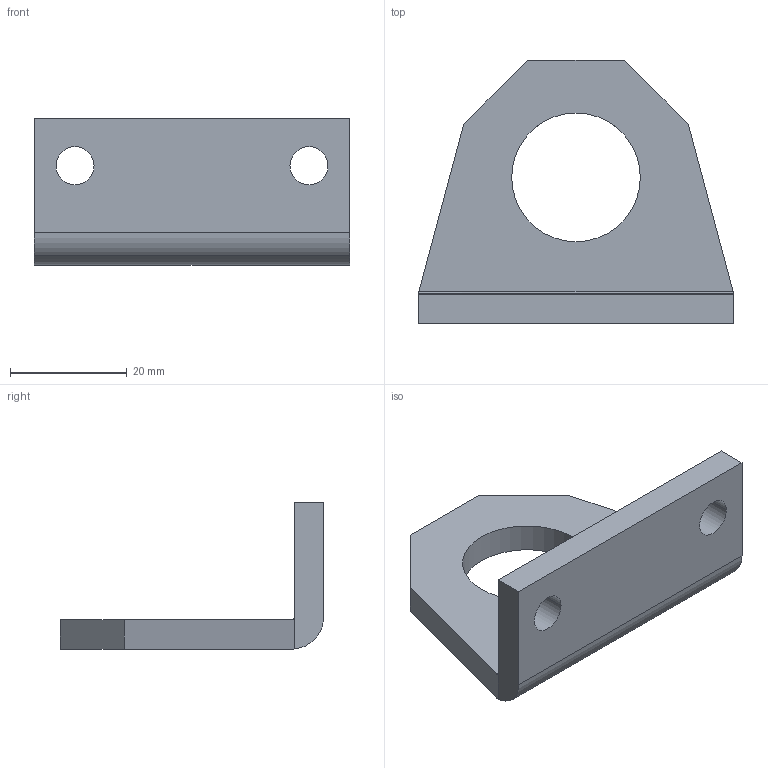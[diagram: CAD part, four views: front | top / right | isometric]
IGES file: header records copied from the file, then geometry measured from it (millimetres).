
Global section: file name: No Iges File Name specified; native system: AutoDesk Inventor R6.0; preprocessor: AutoDesk Inventor Iges Exporter R6.0; author: No Author specified; organization: No Organization specified; date: 20030408.081537; units: millimetre
Bounding box: 54 x 45 x 25 mm (x, y, z)
Volume: 12389.4 mm3; surface area: 6551 mm2
Topology: 1 solids, 1 shells, 22 faces, 58 edges, 38 vertices
Faces by surface type: plane 12, revolution 4, bspline 4, cylinder 2
